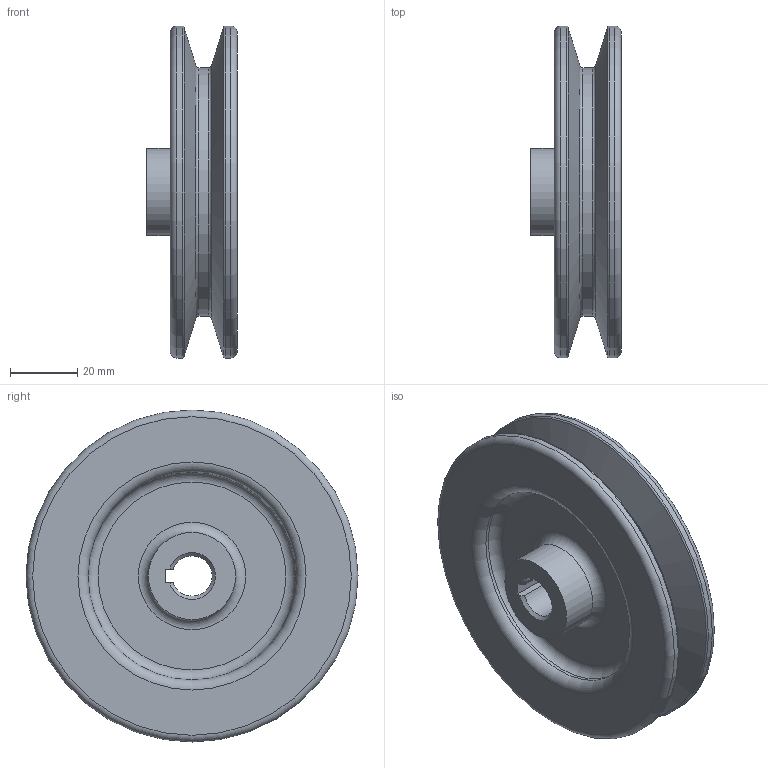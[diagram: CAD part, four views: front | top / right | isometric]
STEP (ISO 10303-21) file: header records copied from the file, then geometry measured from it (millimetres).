
FILE_DESCRIPTION(/* description */ (''),/* implementation_level */ '2;1');
FILE_NAME(/* name */ '',/* time_stamp */ '2024-04-08T11:29:33+09:00',/* author */ ('jhkim'),/* organization */ (''),/* preprocessor_version */ 'ST-DEVELOPER v20',/* originating_system */ 'Autodesk Inventor 2025',/* authorisation */ '');
FILE_SCHEMA (('AUTOMOTIVE_DESIGN { 1 0 10303 214 3 1 1 }'));
Length unit declared in the file: millimetre
Products named in the file (1): V-벨트풀리
Bounding box: 27 x 99 x 99 mm (x, y, z)
Volume: 91118.9 mm3; surface area: 29414.8 mm2
Topology: 1 solids, 1 shells, 32 faces, 78 edges, 52 vertices
Faces by surface type: torus 12, plane 9, cylinder 8, cone 3
Full cylindrical faces by diameter (mm): 26 x2, 62 x2, 74 x1, 99 x2
Entity records: 1024 total; most frequent: DIRECTION 199, CARTESIAN_POINT 167, ORIENTED_EDGE 156, AXIS2_PLACEMENT_3D 90, EDGE_CURVE 78, CIRCLE 57, VERTEX_POINT 52, EDGE_LOOP 38
